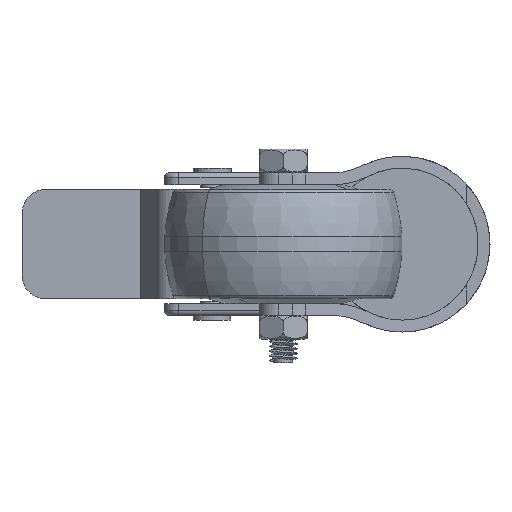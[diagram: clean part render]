
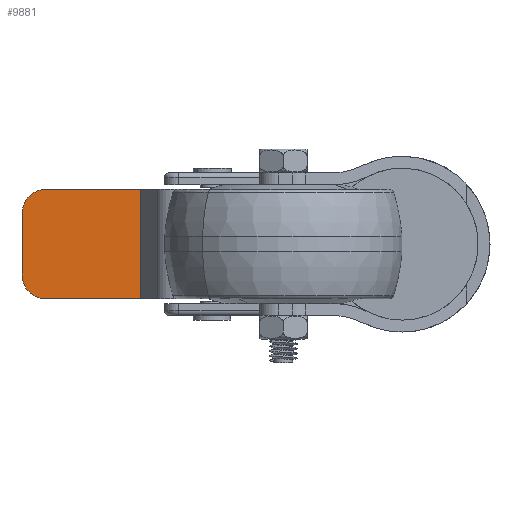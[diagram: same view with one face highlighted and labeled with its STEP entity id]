
A CAD part, front view. The second image highlights one B-rep face of the part: STEP entity #9881.
In plain terms, the highlighted planar face has unit normal (0, -1, 0).
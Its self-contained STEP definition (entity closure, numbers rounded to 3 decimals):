
#300 = AXIS2_PLACEMENT_3D ( 'NONE', #14643, #6739, #15981 ) ;
#544 = ORIENTED_EDGE ( 'NONE', *, *, #12874, .T. ) ;
#895 = CIRCLE ( 'NONE', #300, 5. ) ;
#1105 = DIRECTION ( 'NONE',  ( 0., -1., 0. ) ) ;
#3114 = ORIENTED_EDGE ( 'NONE', *, *, #6419, .T. ) ;
#3240 = LINE ( 'NONE', #4883, #13357 ) ;
#3511 = EDGE_LOOP ( 'NONE', ( #9960, #3114, #544, #5358, #8318, #6890 ) ) ;
#3573 = CARTESIAN_POINT ( 'NONE',  ( -35., 0., 11.5 ) ) ;
#3769 = EDGE_CURVE ( 'NONE', #13266, #4932, #3240, .T. ) ;
#3780 = VECTOR ( 'NONE', #13838, 1000. ) ;
#3895 = CARTESIAN_POINT ( 'NONE',  ( -60., 0., 6.5 ) ) ;
#4419 = CARTESIAN_POINT ( 'NONE',  ( -35., 0., 11.5 ) ) ;
#4479 = DIRECTION ( 'NONE',  ( -1., 0., 0. ) ) ;
#4774 = LINE ( 'NONE', #4928, #7459 ) ;
#4883 = CARTESIAN_POINT ( 'NONE',  ( -35., 0., 11.5 ) ) ;
#4928 = CARTESIAN_POINT ( 'NONE',  ( -35., 0., 11.5 ) ) ;
#4932 = VERTEX_POINT ( 'NONE', #3573 ) ;
#5358 = ORIENTED_EDGE ( 'NONE', *, *, #11861, .F. ) ;
#5908 = CARTESIAN_POINT ( 'NONE',  ( -60., 0., 11.5 ) ) ;
#6185 = LINE ( 'NONE', #10189, #9295 ) ;
#6264 = DIRECTION ( 'NONE',  ( 0., 0., -1. ) ) ;
#6419 = EDGE_CURVE ( 'NONE', #6732, #15943, #895, .T. ) ;
#6732 = VERTEX_POINT ( 'NONE', #8627 ) ;
#6739 = DIRECTION ( 'NONE',  ( 0., -1., 0. ) ) ;
#6890 = ORIENTED_EDGE ( 'NONE', *, *, #8810, .T. ) ;
#7015 = VERTEX_POINT ( 'NONE', #3895 ) ;
#7459 = VECTOR ( 'NONE', #6264, 1000. ) ;
#8192 = CARTESIAN_POINT ( 'NONE',  ( -55., 0., 11.5 ) ) ;
#8318 = ORIENTED_EDGE ( 'NONE', *, *, #3769, .F. ) ;
#8627 = CARTESIAN_POINT ( 'NONE',  ( -60., 0., -6.5 ) ) ;
#8810 = EDGE_CURVE ( 'NONE', #13266, #7015, #16738, .T. ) ;
#9041 = CARTESIAN_POINT ( 'NONE',  ( -55., 0., 6.5 ) ) ;
#9295 = VECTOR ( 'NONE', #10245, 1000. ) ;
#9755 = AXIS2_PLACEMENT_3D ( 'NONE', #9041, #1105, #10375 ) ;
#9881 = ADVANCED_FACE ( 'NONE', ( #12802 ), #11084, .F. ) ;
#9960 = ORIENTED_EDGE ( 'NONE', *, *, #15646, .T. ) ;
#10189 = CARTESIAN_POINT ( 'NONE',  ( -35., 0., -11.5 ) ) ;
#10245 = DIRECTION ( 'NONE',  ( 1., 0., 0. ) ) ;
#10375 = DIRECTION ( 'NONE',  ( -1., 0., 0. ) ) ;
#10746 = VERTEX_POINT ( 'NONE', #11420 ) ;
#11084 = PLANE ( 'NONE',  #14074 ) ;
#11420 = CARTESIAN_POINT ( 'NONE',  ( -35., 0., -11.5 ) ) ;
#11541 = DIRECTION ( 'NONE',  ( 1., 0., 0. ) ) ;
#11861 = EDGE_CURVE ( 'NONE', #4932, #10746, #4774, .T. ) ;
#12397 = DIRECTION ( 'NONE',  ( 0., 1., 0. ) ) ;
#12802 = FACE_OUTER_BOUND ( 'NONE', #3511, .T. ) ;
#12874 = EDGE_CURVE ( 'NONE', #15943, #10746, #6185, .T. ) ;
#13266 = VERTEX_POINT ( 'NONE', #8192 ) ;
#13357 = VECTOR ( 'NONE', #11541, 1000. ) ;
#13838 = DIRECTION ( 'NONE',  ( 0., 0., -1. ) ) ;
#14074 = AXIS2_PLACEMENT_3D ( 'NONE', #4419, #12397, #4479 ) ;
#14643 = CARTESIAN_POINT ( 'NONE',  ( -55., 0., -6.5 ) ) ;
#14719 = LINE ( 'NONE', #5908, #3780 ) ;
#15646 = EDGE_CURVE ( 'NONE', #7015, #6732, #14719, .T. ) ;
#15943 = VERTEX_POINT ( 'NONE', #17097 ) ;
#15981 = DIRECTION ( 'NONE',  ( -1., 0., 0. ) ) ;
#16738 = CIRCLE ( 'NONE', #9755, 5. ) ;
#17097 = CARTESIAN_POINT ( 'NONE',  ( -55., 0., -11.5 ) ) ;
